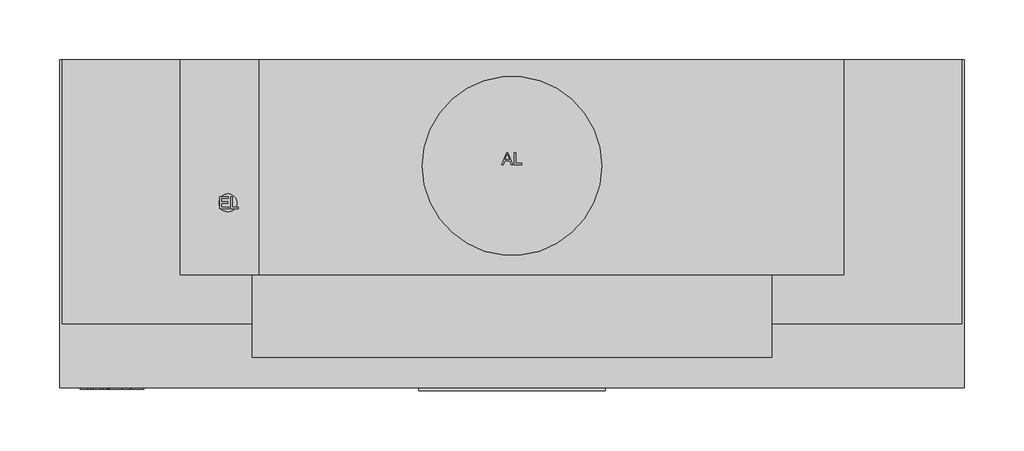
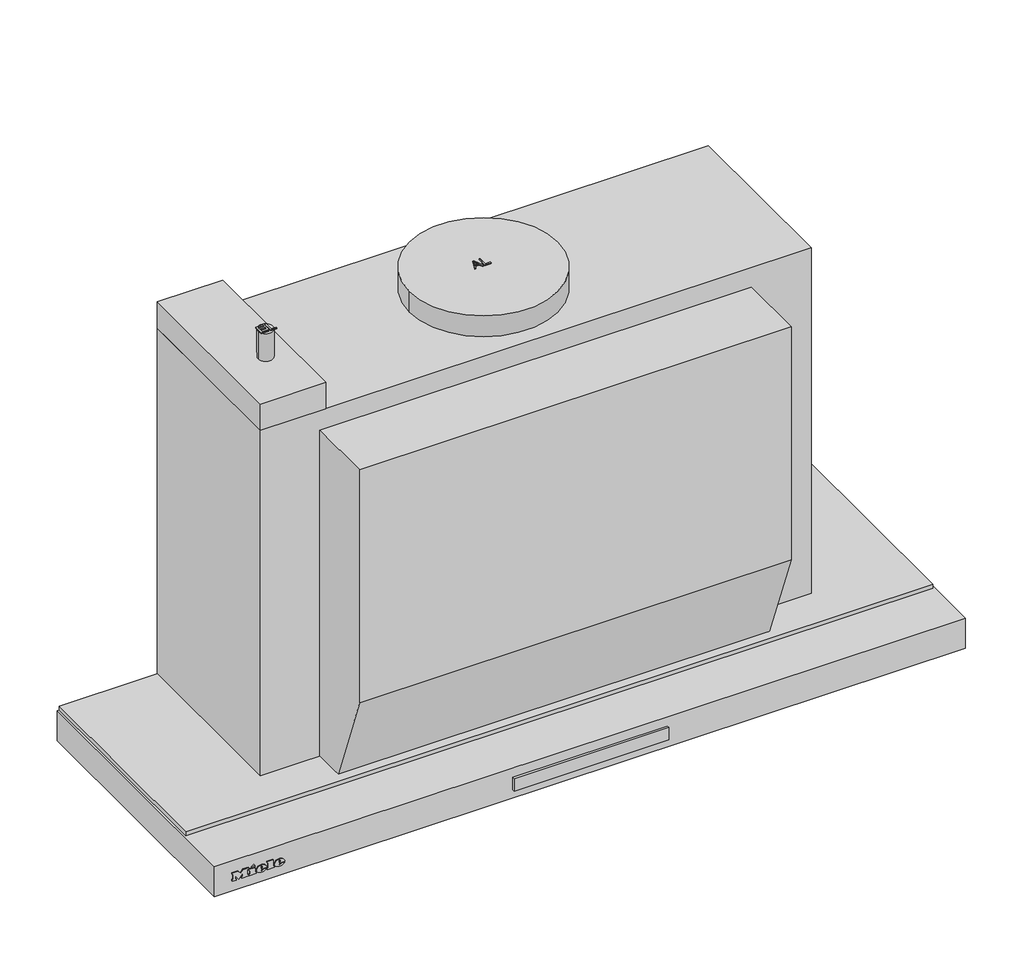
# Not in any storey: 1 proxy.
"""IFC4 building model written with IfcOpenShell, lengths in millimetres."""

from ifc_helpers import new_model, si_unit, origin, place, context, project, spatial, transform, mapped, element, save
from components import specialty_equipment_79cfb4cb

model = new_model("IFC4")

# Units and contexts
model_context = context("Model", 3, world=origin())
ifc_project = project(units=[si_unit("LENGTHUNIT", "METRE", prefix="MILLI")], contexts=[model_context])

# Site, building
site = spatial("IfcSite", under=ifc_project)
building = spatial("IfcBuilding", under=site)

# Proxy
placement = place(None, origin())
specialty_equipment_shape = specialty_equipment_79cfb4cb(model_context)
element("IfcBuildingElementProxy", 1, Name="11878520_USA_DAS4720_EDST : 28S4720S_USA_11878520_DAS4720_EDST", ObjectType="11878520_USA_DAS4720_EDST : 28S4720S_USA_11878520_DAS4720_EDST", at=placement, inside=building, context=model_context, shape_type="MappedRepresentation", body=[
    mapped(specialty_equipment_shape, transform((0.0, 0.0, 0.0), x_axis=(1.0, 0.0, 0.0), y_axis=(0.0, 1.0, 0.0), z_axis=(0.0, 0.0, 1.0))),
])

save(model, "model.ifc")
